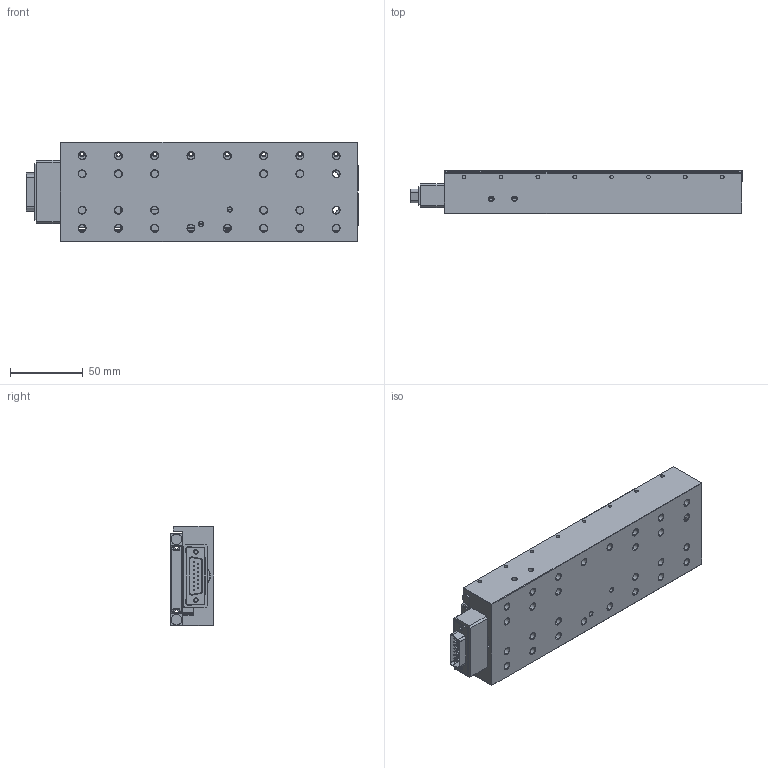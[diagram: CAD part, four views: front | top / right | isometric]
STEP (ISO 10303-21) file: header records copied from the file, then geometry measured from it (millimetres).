
FILE_DESCRIPTION (( 'STEP AP214' ), '1' );
FILE_NAME ('LS-100-YXXXX (CATALOG MODEL).STEP', '2020-09-08T22:14:12', ( 'Matthew' ), ( 'Microsoft' ), 'SwSTEP 2.0', 'SolidWorks 2020', '' );
FILE_SCHEMA (( 'AUTOMOTIVE_DESIGN' ));
Length unit declared in the file: millimetre
Products named in the file (1): LS-100-YXXXX (CATALOG MODEL)
Bounding box: 228.62 x 29.93 x 68.58 mm (x, y, z)
Surface area: 97485.6 mm2 (no closed solid volume)
Topology: 0 solids, 21 shells, 652 faces, 2075 edges, 1457 vertices
Faces by surface type: cylinder 367, plane 189, cone 79, bspline 15, torus 2
Entity records: 27666 total; most frequent: CARTESIAN_POINT 8153, DIRECTION 4111, ORIENTED_EDGE 3523, EDGE_CURVE 2075, AXIS2_PLACEMENT_3D 1551, VERTEX_POINT 1457, VECTOR 1009, LINE 1009
